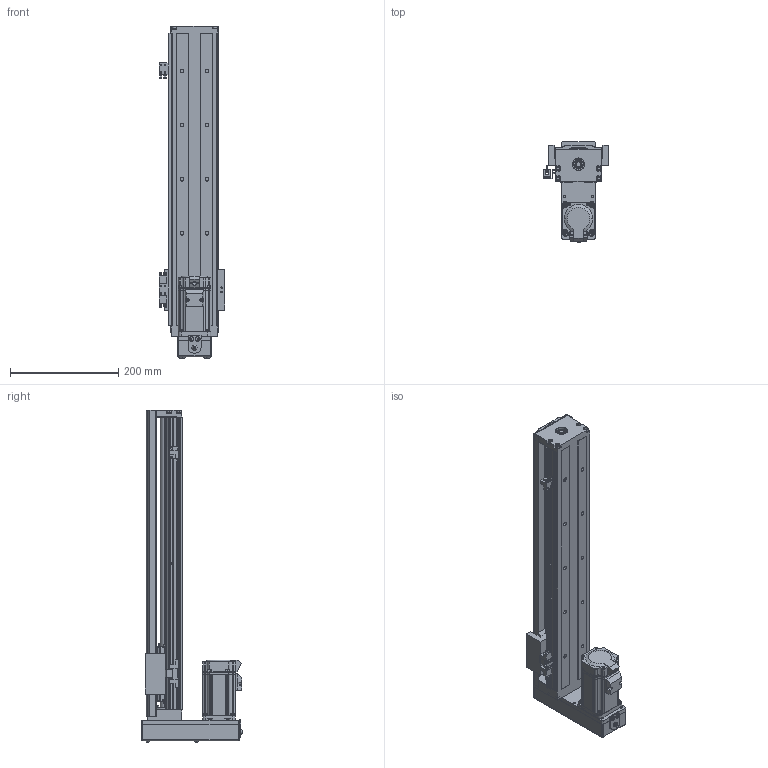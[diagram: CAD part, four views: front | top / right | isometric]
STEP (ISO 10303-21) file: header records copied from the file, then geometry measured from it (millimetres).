
FILE_DESCRIPTION (( 'STEP AP214' ), '1' );
FILE_NAME ('SFKK86-540A1-HM0C.STEP', '2022-05-05T13:09:11', ( '微软用户' ), ( '微软中国' ), 'SwSTEP 2.0', 'SolidWorks 2018', '' );
FILE_SCHEMA (( 'AUTOMOTIVE_DESIGN' ));
Length unit declared in the file: millimetre
Products named in the file (12): SFKK86-H0_KKR86-ZT-P-540; SFKK86-H0-侂狟400W耜蚾; SFKK86-A1-C; 极限轨道与开关固定座组合_540; 带盖挡光片：KK-86-S2-D1; SX674嫖萇羲壽; SFKK86-CU_540; 开关固定座：KK-674S2-F; hexagon socket countersunk head screws gb_GB_FASTENER_SCREWS_HSCHS M4X10-N; SFKK86-540A1-HM0C; hexagon socket countersunk head screws gb_GB_FASTENER_SCREWS_HSCHS M3X8-N; SFKK86-LR 憤癹寢耋_540
Assembly tree (18 placements, depth 3):
  SFKK86-540A1-HM0C
    SFKK86-H0_KKR86-ZT-P-540
    SFKK86-A1-C
    极限轨道与开关固定座组合_540
      SFKK86-LR 憤癹寢耋_540
      开关固定座：KK-674S2-F  x2
    SX674嫖萇羲壽  x3
    带盖挡光片：KK-86-S2-D1
    hexagon socket countersunk head screws gb_GB_FASTENER_SCREWS_HSCHS M3X8-N  x2
    SFKK86-CU_540
    hexagon socket countersunk head screws gb_GB_FASTENER_SCREWS_HSCHS M4X10-N  x4
    SFKK86-H0-侂狟400W耜蚾
Bounding box: 121.25 x 185.75 x 613.2 mm (x, y, z)
Volume: 1504496.9 mm3; surface area: 625519.7 mm2
Topology: 38 solids, 87 shells, 3659 faces, 9743 edges, 6238 vertices
Faces by surface type: plane 1627, cylinder 1469, cone 325, torus 105, bspline 100, sphere 33
Entity records: 137508 total; most frequent: CARTESIAN_POINT 29578, DIRECTION 18351, ORIENTED_EDGE 17578, EDGE_CURVE 9072, AXIS2_PLACEMENT_3D 6606, VERTEX_POINT 5912, LINE 5139, VECTOR 5139
